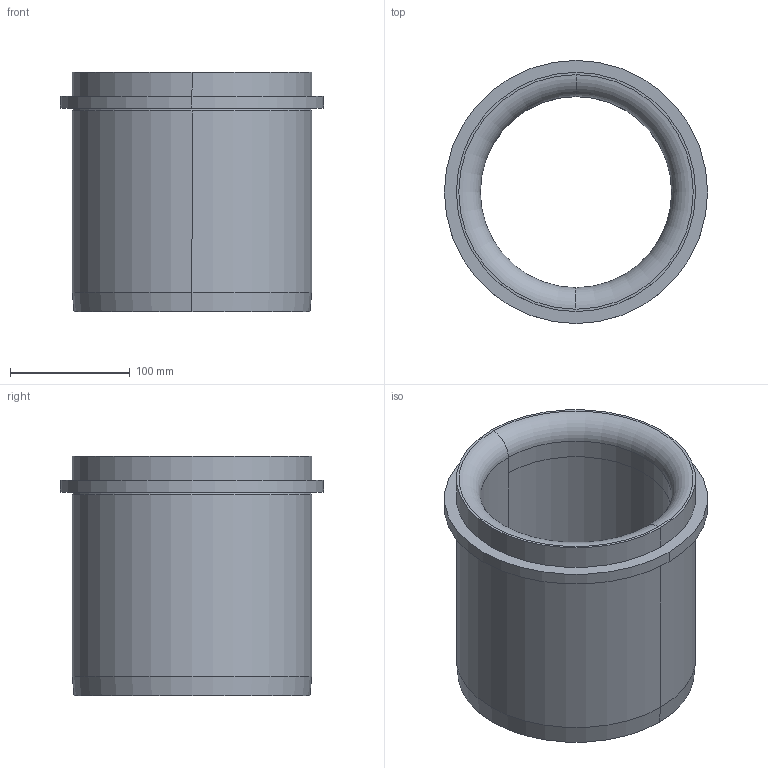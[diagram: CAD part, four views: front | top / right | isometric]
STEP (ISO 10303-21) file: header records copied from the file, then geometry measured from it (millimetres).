
FILE_DESCRIPTION(('CATIA V5 STEP'),'2;1');
FILE_NAME('\\GSBFILE\data\URETIM\3D DATALAR\Step Dosyaları\Kılavuz Elemanları\G211-02-160-200.stp','2020-07-07T05:53:03+00:00',('none'),('none'),'CATIA Version 5-6 Release 2019 SP3','CATIA V5 STEP AP203 v1','none');
FILE_SCHEMA(('CONFIG_CONTROL_DESIGN'));
Length unit declared in the file: millimetre
Products named in the file (1): Part1
Bounding box: 220 x 220 x 200 mm (x, y, z)
Volume: 2283657.5 mm3; surface area: 258034 mm2
Topology: 1 solids, 1 shells, 30 faces, 65 edges, 39 vertices
Faces by surface type: cylinder 12, torus 8, cone 6, plane 4
Entity records: 839 total; most frequent: CARTESIAN_POINT 186, ORIENTED_EDGE 130, DIRECTION 104, EDGE_CURVE 65, AXIS2_PLACEMENT_3D 62, CIRCLE 40, VERTEX_POINT 39, EDGE_LOOP 34
